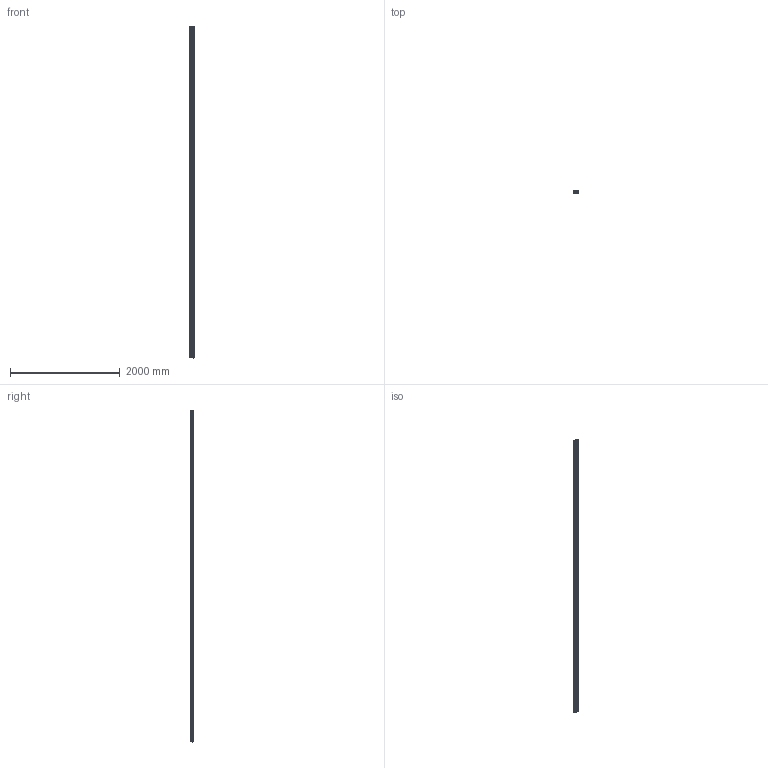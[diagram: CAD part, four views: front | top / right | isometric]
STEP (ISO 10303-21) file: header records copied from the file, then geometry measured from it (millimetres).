
FILE_DESCRIPTION (( 'STEP AP203' ), '1' );
FILE_NAME ('20101920_Profil 40x80L 3N90 Nut 10.step', '2023-11-27T13:39:24', ( '' ), ( '' ), 'SwSTEP 2.0', 'SolidWorks 2021', '' );
FILE_SCHEMA (( 'CONFIG_CONTROL_DESIGN' ));
Length unit declared in the file: millimetre
Products named in the file (1): 20101920_Profil 40x80L 3N90 Nut 10
Bounding box: 80 x 40 x 6060 mm (x, y, z)
Volume: 6430204.9 mm3; surface area: 5271649.9 mm2
Topology: 1 solids, 1 shells, 365 faces, 1089 edges, 726 vertices
Faces by surface type: plane 191, cylinder 174
Entity records: 12468 total; most frequent: CARTESIAN_POINT 2181, ORIENTED_EDGE 2178, DIRECTION 2169, EDGE_CURVE 1089, LINE 741, VECTOR 741, VERTEX_POINT 726, AXIS2_PLACEMENT_3D 714
